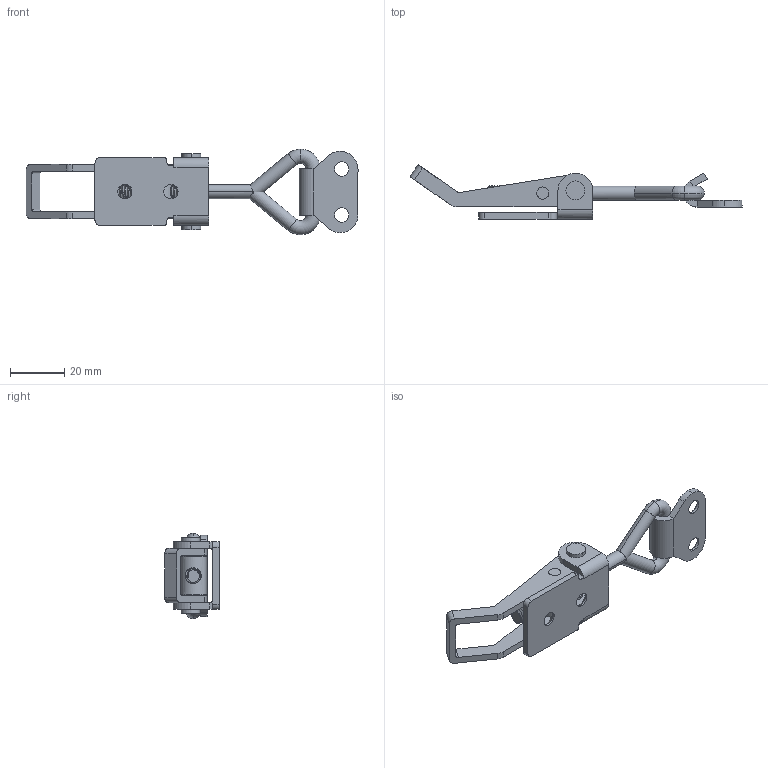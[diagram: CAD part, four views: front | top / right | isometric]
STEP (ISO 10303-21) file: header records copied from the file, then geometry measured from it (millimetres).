
FILE_DESCRIPTION (( 'STEP AP203' ), '1' );
FILE_NAME ('SK3-017-2.STEP', '2018-11-01T07:53:07', ( 'admin' ), ( 'Microsoft' ), 'SwSTEP 2.0', 'SolidWorks 2015', '' );
FILE_SCHEMA (( 'CONFIG_CONTROL_DESIGN' ));
Length unit declared in the file: millimetre
Products named in the file (7): SK3-017-2-3; SK3-017-2-4; SK3-017-2-5; SK3-017-2-1; SK3-017-2; SK3-017-2-6; SK3-017-2-2
Assembly tree (7 placements, depth 2):
  SK3-017-2
    SK3-017-2-6
    SK3-017-2-2
    SK3-017-2-3
    SK3-017-2-4
    SK3-017-2-5  x2
    SK3-017-2-1
Bounding box: 122.44 x 20.06 x 31.52 mm (x, y, z)
Volume: 11466.9 mm3; surface area: 11743.7 mm2
Topology: 7 solids, 7 shells, 228 faces, 593 edges, 383 vertices
Faces by surface type: cylinder 143, plane 60, torus 9, cone 8, bspline 8
Entity records: 11878 total; most frequent: CARTESIAN_POINT 5982, ORIENTED_EDGE 1162, DIRECTION 1023, EDGE_CURVE 581, AXIS2_PLACEMENT_3D 389, VERTEX_POINT 375, EDGE_LOOP 246, LINE 245
